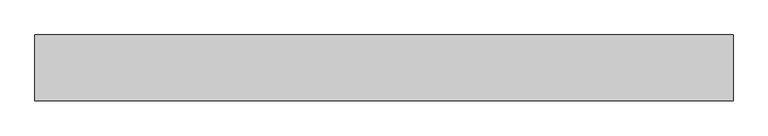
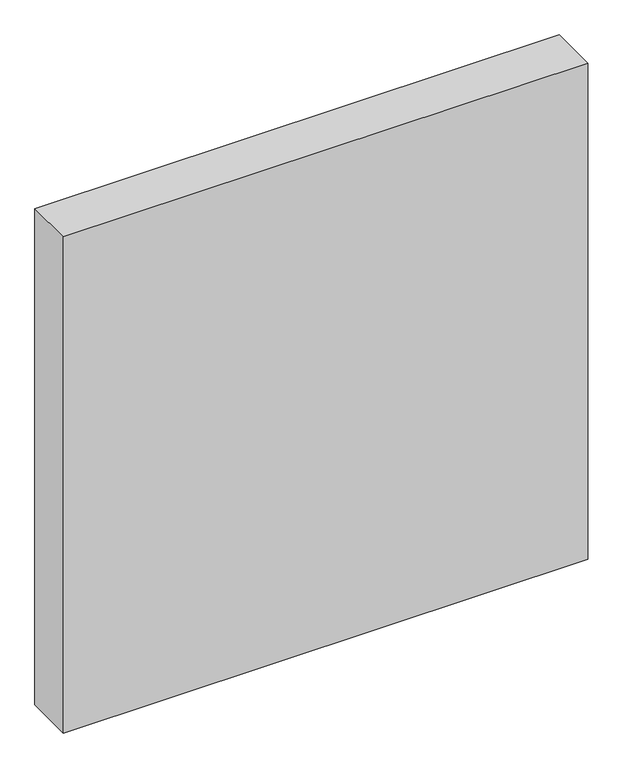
"""IFC4 building model written with IfcOpenShell, lengths in millimetres: proxy geometry, 900x900 Manway Cover Class D ST-02."""

import ifcopenshell
import ifcopenshell.guid

model = None  # the IFC model being written
_history = None  # IfcOwnerHistory: only IFC2X3 demands one
_inside = {}  # id of a spatial element -> (the spatial element, [elements in it])
_under = {}  # id of a project, library or spatial element -> (it, [spatial elements below it])
_declared = {}  # id of a project -> (the project, [libraries it declares])
_typed = {}  # id of a type object -> (the type object, [elements of that type])
_made_of = {}  # id of a material, layer set ... -> (it, [elements and type objects made of it])


def new_model(schema):
    """Start an empty IFC model of exactly this schema.

    Asked for "IFC4X3", IfcOpenShell would pick the latest addendum, in which some entities
    have other attributes; the version numbers below select the first issue.
    IFC2X3 requires an IfcOwnerHistory on every rooted entity: one is made here for all.
    """
    global model, _history
    if schema == "IFC4X3":
        model = ifcopenshell.file(schema_version=(4, 3, 0, 0))
    else:
        model = ifcopenshell.file(schema=schema)
    _inside.clear()
    _under.clear()
    _declared.clear()
    _typed.clear()
    _made_of.clear()
    _history = None
    if model.schema == "IFC2X3":
        org = make("IfcOrganization", Name="unknown")
        user = make(
            "IfcPersonAndOrganization",
            ThePerson=make("IfcPerson", FamilyName="unknown"),
            TheOrganization=org,
        )
        app = make(
            "IfcApplication",
            ApplicationDeveloper=org,
            Version="unknown",
            ApplicationFullName="unknown",
            ApplicationIdentifier="unknown",
        )
        _history = make(
            "IfcOwnerHistory",
            OwningUser=user,
            OwningApplication=app,
            ChangeAction="ADDED",
            CreationDate=0,
        )
    return model


def make(cls, **values):
    """One entity of the class cls with the attributes given. An attribute that is None is left unset."""
    return model.create_entity(
        cls, **{name: value for name, value in values.items() if value is not None}
    )


def rooted(cls, **values):
    """An entity with a GlobalId (a new one), such as an element, a storey or a relation."""
    return make(cls, GlobalId=ifcopenshell.guid.new(), OwnerHistory=_history, **values)


def si_unit(unit_type, name, prefix=None):
    """IfcSIUnit, for example si_unit("LENGTHUNIT", "METRE", prefix="MILLI")."""
    return make("IfcSIUnit", UnitType=unit_type, Prefix=prefix, Name=name)


def assignment(units):
    """IfcUnitAssignment: the units of a project."""
    return None if units is None else make("IfcUnitAssignment", Units=units)


def point(xyz):
    """IfcCartesianPoint."""
    return None if xyz is None else make("IfcCartesianPoint", Coordinates=xyz)


def direction(xyz):
    """IfcDirection."""
    return None if xyz is None else make("IfcDirection", DirectionRatios=xyz)


def frame(location, z_axis=None, x_axis=None):
    """IfcAxis2Placement3D, a coordinate frame: its origin and axes. An axis left out is left unset."""
    return make(
        "IfcAxis2Placement3D",
        Location=point(location),
        Axis=direction(z_axis),
        RefDirection=direction(x_axis),
    )


def origin():
    """The frame at (0, 0, 0) with its axes left unset."""
    return frame((0.0, 0.0, 0.0))


def place(relative_to, where):
    """IfcLocalPlacement: puts the frame where relative to a parent placement (None: the world)."""
    return make(
        "IfcLocalPlacement", PlacementRelTo=relative_to, RelativePlacement=where
    )


def context(
    kind, dimensions, precision=None, world=None, true_north=None, identifier=None
):
    """IfcGeometricRepresentationContext, for example the 3D "Model" context."""
    return make(
        "IfcGeometricRepresentationContext",
        ContextIdentifier=identifier,
        ContextType=kind,
        CoordinateSpaceDimension=dimensions,
        Precision=precision,
        WorldCoordinateSystem=world,
        TrueNorth=true_north,
    )


def project(units=None, contexts=None):
    """IfcProject with its units and contexts."""
    return rooted(
        "IfcProject",
        Name="project",
        RepresentationContexts=contexts,
        UnitsInContext=assignment(units),
    )


def spatial(cls, under=None, at=None, **own):
    """A site, building, storey or space (cls), placed at a placement, below another one or the project."""
    s = rooted(cls, ObjectPlacement=at, **own)
    if under is not None:
        _under.setdefault(under.id(), (under, []))[1].append(s)
    return s


def polyline(points):
    """IfcPolyline through the points."""
    return make("IfcPolyline", Points=[point(p) for p in points])


def outline(outer, holes=None, kind="AREA"):
    """IfcArbitraryClosedProfileDef: a profile drawn as a closed curve; with holes, ...WithVoids."""
    if holes is None:
        return make("IfcArbitraryClosedProfileDef", ProfileType=kind, OuterCurve=outer)
    return make(
        "IfcArbitraryProfileDefWithVoids",
        ProfileType=kind,
        OuterCurve=outer,
        InnerCurves=holes,
    )


def extrude(swept, where, along, depth):
    """IfcExtrudedAreaSolid: the profile swept, set in the frame where, extruded along a direction by depth."""
    return make(
        "IfcExtrudedAreaSolid",
        SweptArea=swept,
        Position=where,
        ExtrudedDirection=direction(along),
        Depth=depth,
    )


def shape(context_of_items, identifier, shape_type, items):
    """IfcShapeRepresentation: the items that make up one representation, for example the "Body"."""
    return make(
        "IfcShapeRepresentation",
        ContextOfItems=context_of_items,
        RepresentationIdentifier=identifier,
        RepresentationType=shape_type,
        Items=items,
    )


def source(mapping_origin, context_of_items, identifier, shape_type, items):
    """IfcRepresentationMap: a shape defined once, which mapped items show again and again."""
    return make(
        "IfcRepresentationMap",
        MappingOrigin=mapping_origin,
        MappedRepresentation=shape(context_of_items, identifier, shape_type, items),
    )


def transform(
    local_origin,
    x_axis=None,
    y_axis=None,
    z_axis=None,
    scale=None,
    scale2=None,
    scale3=None,
    uniform=True,
):
    """IfcCartesianTransformationOperator3D, or its non-uniform kind. x_axis, y_axis, z_axis: its Axis1, 2, 3."""
    if uniform:
        return make(
            "IfcCartesianTransformationOperator3D",
            Axis1=direction(x_axis),
            Axis2=direction(y_axis),
            LocalOrigin=point(local_origin),
            Scale=scale,
            Axis3=direction(z_axis),
        )
    return make(
        "IfcCartesianTransformationOperator3DnonUniform",
        Axis1=direction(x_axis),
        Axis2=direction(y_axis),
        LocalOrigin=point(local_origin),
        Scale=scale,
        Axis3=direction(z_axis),
        Scale2=scale2,
        Scale3=scale3,
    )


def mapped(mapping_source, mapping_target):
    """IfcMappedItem: shows the shape of a source again, moved by a transform."""
    return make(
        "IfcMappedItem", MappingSource=mapping_source, MappingTarget=mapping_target
    )


def made_of(thing, what):
    """Note that an element or type object is made of a material, layer set ...; save() writes the relation."""
    if what is not None:
        _made_of.setdefault(what.id(), (what, []))[1].append(thing)
    return thing


def element(
    cls,
    number,
    at=None,
    inside=None,
    cuts=None,
    type_object=None,
    material=None,
    context=None,
    identifier="Body",
    shape_type=None,
    held_by="IfcProductDefinitionShape",
    body=None,
    shapes=None,
    **own,
):
    """One element of the class cls, such as IfcWall. Its Tag is "e" and its number.

    at: its placement. inside: the storey or other place that contains it. cuts: it is an
    opening in that element (IfcRelVoidsElement). A single representation is given by context,
    identifier, shape_type and body (its items); several are given by shapes. held_by: the class
    of the entity that holds the representations. save() writes the other relations.
    """
    e = rooted(cls, Tag="e%d" % number, ObjectPlacement=at, **own)
    if body is not None:
        shapes = [shape(context, identifier, shape_type, body)]
    if shapes is not None:
        e.Representation = make(held_by, Representations=shapes)
    if inside is not None:
        _inside.setdefault(inside.id(), (inside, []))[1].append(e)
    if cuts is not None:
        rooted(
            "IfcRelVoidsElement", RelatingBuildingElement=cuts, RelatedOpeningElement=e
        )
    if type_object is not None:
        _typed.setdefault(type_object.id(), (type_object, []))[1].append(e)
    return made_of(e, material)


def aggregate(whole, parts):
    """IfcRelAggregates: a whole, such as a stair, and the parts it consists of."""
    return rooted("IfcRelAggregates", RelatingObject=whole, RelatedObjects=parts)


def save(model, path):
    """Write the relations noted so far, then the file.

    IfcRelAggregates (storeys below a building ...), IfcRelContainedInSpatialStructure (elements
    in a storey), IfcRelDefinesByType, IfcRelAssociatesMaterial and IfcRelDeclares: one each for
    every whole, place, type object, material and project.
    """
    for whole, parts in _under.values():
        aggregate(whole, parts)
    for where, things in _inside.values():
        rooted(
            "IfcRelContainedInSpatialStructure",
            RelatedElements=things,
            RelatingStructure=where,
        )
    for kind, things in _typed.values():
        rooted("IfcRelDefinesByType", RelatedObjects=things, RelatingType=kind)
    for what, things in _made_of.values():
        rooted("IfcRelAssociatesMaterial", RelatedObjects=things, RelatingMaterial=what)
    for by, libraries in _declared.values():
        rooted("IfcRelDeclares", RelatingContext=by, RelatedDefinitions=libraries)
    model.write(path)


def generic_models_27197e94(model_context):
    return source(origin(), model_context, "Body", "SweptSolid", [
        extrude(outline(polyline([(-530.0, 0.0), (-530.0, 100.0), (530.0, 100.0), (530.0, 0.0), (-530.0, 0.0)])), frame((0.0, 0.0, -530.0), z_axis=(0.0, 0.0, 1.0), x_axis=(1.0, 0.0, 0.0)), (0.0, 0.0, 1.0), 1060.0),
    ])


if __name__ == "__main__":
    model = new_model("IFC4")
    model_context = context("Model", 3, world=origin())
    ifc_project = project(units=[si_unit("LENGTHUNIT", "METRE", prefix="MILLI")], contexts=[model_context])
    site = spatial("IfcSite", under=ifc_project)
    building = spatial("IfcBuilding", under=site)
    placement = place(None, origin())
    generic_models_shape = generic_models_27197e94(model_context)
    element("IfcBuildingElementProxy", 1, Name="900x900 Manway Cover Class D ST-02", ObjectType="900x900 Manway Cover Class D ST-02", at=placement, inside=building, context=model_context, shape_type="MappedRepresentation", body=[
        mapped(generic_models_shape, transform((0.0, 0.0, 0.0), x_axis=(1.0, 0.0, 0.0), y_axis=(0.0, 1.0, 0.0), z_axis=(0.0, 0.0, 1.0))),
    ])
    save(model, "model.ifc")
